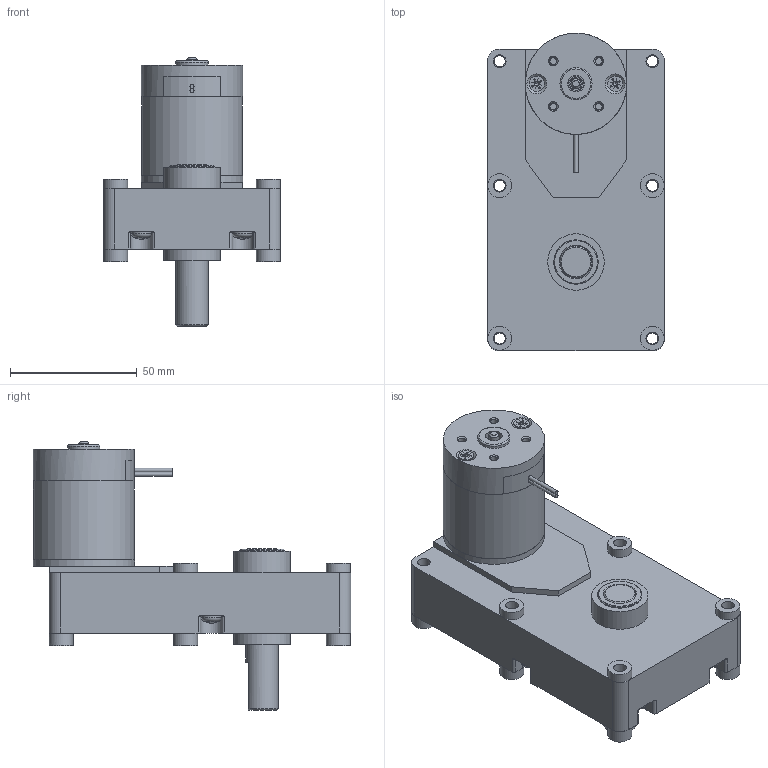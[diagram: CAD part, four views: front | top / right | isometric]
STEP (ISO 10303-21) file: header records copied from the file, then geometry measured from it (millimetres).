
FILE_DESCRIPTION((''),'2;1');
FILE_NAME('D:\업무 관련\2. DC\홈페이지 링크용 도면\3D\SG\SG42BL.stp','2015-04-04T09:16:22',('leejy'),(''),'Autodesk Inventor 2013','Autodesk Inventor 2013','');
FILE_SCHEMA(('AUTOMOTIVE_DESIGN { 1 0 10303 214 1 1 1 1 }'));
Length unit declared in the file: millimetre
Products named in the file (10): SG42BL; SG2 SERIES BOX; RM42ㅁBL; RM4TYPE_FRONT_HOUSING_; RM4TYPE_PIPE_HOUSING_pi40XL31.2; RM42TYPE_SHAFT; AS 1427 Z - 미터 M3.5 x 5; REAR_HOUSING__ASS'Y_LEAD; RM4TYPE_BRUSH_BRAKET_LEAD; RM4TYPE_REAR_HOUSING
Assembly tree (9 placements, depth 3):
  SG42BL
    SG2 SERIES BOX
    RM42ㅁBL
      RM4TYPE_FRONT_HOUSING_
      RM4TYPE_PIPE_HOUSING_pi40XL31.2
      RM42TYPE_SHAFT
      AS 1427 Z - 미터 M3.5 x 5  x2
  REAR_HOUSING__ASS'Y_LEAD
    RM4TYPE_BRUSH_BRAKET_LEAD
    RM4TYPE_REAR_HOUSING
Bounding box: 69.85 x 125.41 x 106.08 mm (x, y, z)
Volume: 119047 mm3; surface area: 72186.6 mm2
Topology: 10 solids, 10 shells, 529 faces, 1374 edges, 885 vertices
Faces by surface type: plane 207, cylinder 129, cone 127, torus 60, sphere 6
Full cylindrical faces by diameter (mm): 1.6 x2, 2.7 x4, 2.8 x4, 3.132 x2, 3.5 x2, 3.571 x6, 3.7 x2, 3.969 x1, 4 x7, 4.3 x6, 4.4 x6, 4.45 x1, 5 x1, 5.05 x6, 6 x1, 6.1 x2, 6.5 x1, 6.65 x1, 9.4 x1, 9.5 x9, 12.7 x5, 17.5 x4, 20.3 x1, 22.3 x2, 36.5 x1, 40 x3
Entity records: 15198 total; most frequent: CARTESIAN_POINT 3822, DIRECTION 2303, ORIENTED_EDGE 2126, EDGE_CURVE 1063, AXIS2_PLACEMENT_3D 986, VERTEX_POINT 755, EDGE_LOOP 702, FACE_OUTER_BOUND 488
